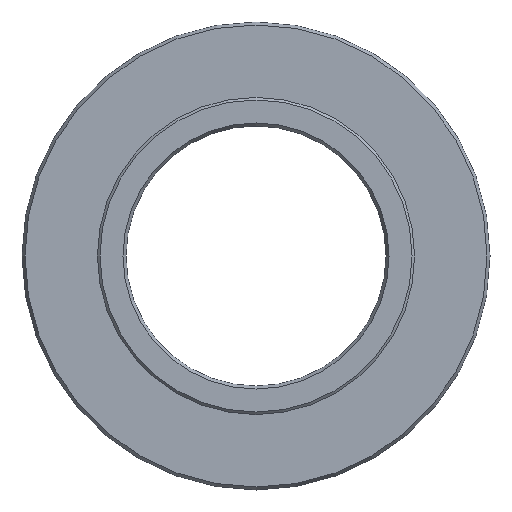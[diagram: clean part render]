
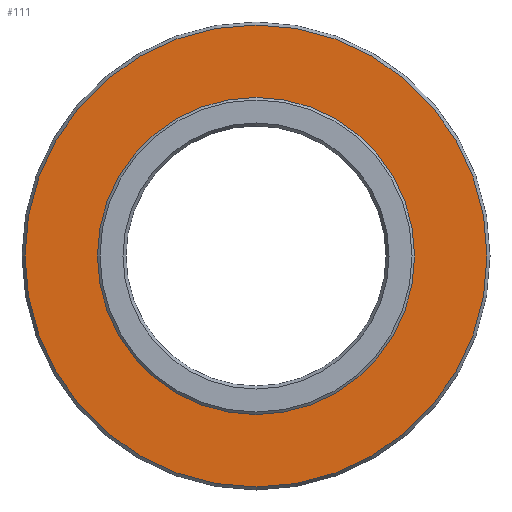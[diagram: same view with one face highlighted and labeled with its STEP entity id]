
A CAD part, left-side view. The second image highlights one B-rep face of the part: STEP entity #111.
In plain terms, the highlighted planar face has unit normal (-1, 0, 0).
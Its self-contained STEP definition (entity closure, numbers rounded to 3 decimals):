
#97=PLANE('',#323);
#111=ADVANCED_FACE('',(#144,#145),#97,.T.);
#144=FACE_BOUND('',#175,.T.);
#145=FACE_BOUND('',#176,.T.);
#175=EDGE_LOOP('',(#214));
#176=EDGE_LOOP('',(#215));
#214=ORIENTED_EDGE('',*,*,#279,.T.);
#215=ORIENTED_EDGE('',*,*,#280,.T.);
#258=VERTEX_POINT('',#461);
#259=VERTEX_POINT('',#463);
#279=EDGE_CURVE('',#258,#258,#298,.T.);
#280=EDGE_CURVE('',#259,#259,#299,.T.);
#298=CIRCLE('',#321,44.423);
#299=CIRCLE('',#322,30.5);
#321=AXIS2_PLACEMENT_3D('',#460,#369,#370);
#322=AXIS2_PLACEMENT_3D('',#462,#371,#372);
#323=AXIS2_PLACEMENT_3D('',#464,#373,#374);
#369=DIRECTION('',(-1.,0.,0.));
#370=DIRECTION('',(0.,0.,1.));
#371=DIRECTION('',(1.,0.,0.));
#372=DIRECTION('',(0.,0.,-1.));
#373=DIRECTION('',(-1.,0.,0.));
#374=DIRECTION('',(0.,0.,1.));
#460=CARTESIAN_POINT('',(0.,0.,0.));
#461=CARTESIAN_POINT('',(0.,0.,44.423));
#462=CARTESIAN_POINT('',(0.,0.,0.));
#463=CARTESIAN_POINT('',(0.,0.,-30.5));
#464=CARTESIAN_POINT('',(0.,45.,0.));
